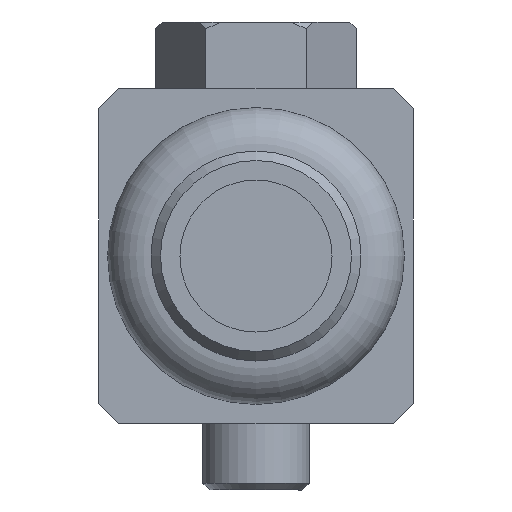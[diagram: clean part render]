
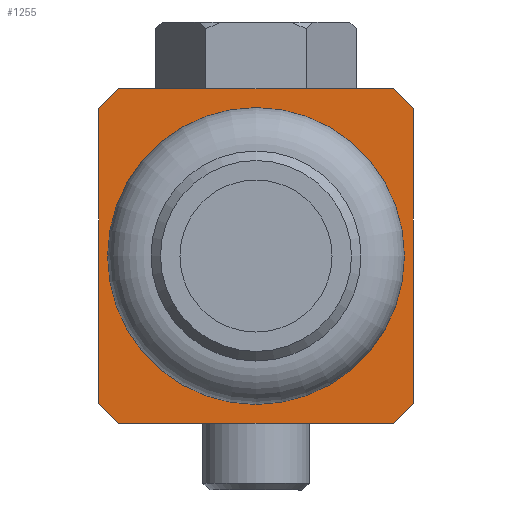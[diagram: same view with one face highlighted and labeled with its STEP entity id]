
A CAD part, front view. The second image highlights one B-rep face of the part: STEP entity #1255.
In plain terms, the highlighted planar face has unit normal (0, -1, 0).
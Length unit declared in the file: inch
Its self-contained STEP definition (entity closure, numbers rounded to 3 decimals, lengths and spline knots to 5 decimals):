
#63=FACE_BOUND('',#221,.T.);
#88=PLANE('',#1413);
#140=FACE_OUTER_BOUND('',#220,.T.);
#220=EDGE_LOOP('',(#949,#950,#951,#952,#953,#954,#955,#956));
#221=EDGE_LOOP('',(#957,#958));
#271=LINE('',#2063,#335);
#277=LINE('',#2075,#341);
#278=LINE('',#2078,#342);
#281=LINE('',#2087,#345);
#282=LINE('',#2090,#346);
#286=LINE('',#2116,#350);
#287=LINE('',#2120,#351);
#288=LINE('',#2121,#352);
#335=VECTOR('',#1661,0.3937);
#341=VECTOR('',#1669,0.3937);
#342=VECTOR('',#1672,0.3937);
#345=VECTOR('',#1681,0.3937);
#346=VECTOR('',#1686,0.3937);
#350=VECTOR('',#1716,0.3937);
#351=VECTOR('',#1721,0.3937);
#352=VECTOR('',#1722,0.3937);
#434=CIRCLE('',#1405,0.43701);
#435=CIRCLE('',#1406,0.43701);
#523=VERTEX_POINT('',#2059);
#525=VERTEX_POINT('',#2062);
#528=VERTEX_POINT('',#2069);
#530=VERTEX_POINT('',#2073);
#531=VERTEX_POINT('',#2077);
#534=VERTEX_POINT('',#2084);
#539=VERTEX_POINT('',#2101);
#540=VERTEX_POINT('',#2103);
#543=VERTEX_POINT('',#2114);
#544=VERTEX_POINT('',#2119);
#666=EDGE_CURVE('',#523,#525,#271,.T.);
#672=EDGE_CURVE('',#528,#530,#277,.T.);
#673=EDGE_CURVE('',#525,#531,#278,.T.);
#678=EDGE_CURVE('',#531,#534,#281,.T.);
#680=EDGE_CURVE('',#534,#530,#282,.T.);
#686=EDGE_CURVE('',#540,#539,#434,.T.);
#687=EDGE_CURVE('',#539,#540,#435,.T.);
#692=EDGE_CURVE('',#543,#523,#286,.T.);
#694=EDGE_CURVE('',#528,#544,#287,.T.);
#695=EDGE_CURVE('',#543,#544,#288,.T.);
#949=ORIENTED_EDGE('',*,*,#694,.F.);
#950=ORIENTED_EDGE('',*,*,#672,.T.);
#951=ORIENTED_EDGE('',*,*,#680,.F.);
#952=ORIENTED_EDGE('',*,*,#678,.F.);
#953=ORIENTED_EDGE('',*,*,#673,.F.);
#954=ORIENTED_EDGE('',*,*,#666,.F.);
#955=ORIENTED_EDGE('',*,*,#692,.F.);
#956=ORIENTED_EDGE('',*,*,#695,.T.);
#957=ORIENTED_EDGE('',*,*,#686,.T.);
#958=ORIENTED_EDGE('',*,*,#687,.T.);
#1255=ADVANCED_FACE('',(#140,#63),#88,.T.);
#1405=AXIS2_PLACEMENT_3D('',#2104,#1700,#1701);
#1406=AXIS2_PLACEMENT_3D('',#2105,#1702,#1703);
#1413=AXIS2_PLACEMENT_3D('',#2118,#1719,#1720);
#1661=DIRECTION('',(0.,0.,1.));
#1669=DIRECTION('',(0.,0.,1.));
#1672=DIRECTION('',(0.707,0.,0.707));
#1681=DIRECTION('',(1.,0.,0.));
#1686=DIRECTION('',(0.707,0.,-0.707));
#1700=DIRECTION('center_axis',(0.,1.,0.));
#1701=DIRECTION('ref_axis',(0.581,0.,-0.814));
#1702=DIRECTION('center_axis',(0.,1.,0.));
#1703=DIRECTION('ref_axis',(0.581,0.,-0.814));
#1716=DIRECTION('',(-0.707,0.,0.707));
#1719=DIRECTION('center_axis',(0.,-1.,0.));
#1720=DIRECTION('ref_axis',(0.,0.,
-1.));
#1721=DIRECTION('',(-0.707,0.,-0.707));
#1722=DIRECTION('',(1.,0.,0.));
#2059=CARTESIAN_POINT('',(-1.92255,-1.68852,-0.11953));
#2062=CARTESIAN_POINT('',(-1.92255,-1.68852,0.74661));
#2063=CARTESIAN_POINT('',(-1.92255,-1.68852,-0.11953));
#2069=CARTESIAN_POINT('',(-0.99735,-1.68852,-0.11953));
#2073=CARTESIAN_POINT('',(-0.99735,-1.68852,0.74661));
#2075=CARTESIAN_POINT('',(-0.99735,-1.68852,-0.11953));
#2077=CARTESIAN_POINT('',(-1.86349,-1.68852,0.80566));
#2078=CARTESIAN_POINT('',(-1.92255,-1.68852,0.74661));
#2084=CARTESIAN_POINT('',(-1.05641,-1.68852,0.80566));
#2087=CARTESIAN_POINT('',(-1.86349,-1.68852,0.80566));
#2090=CARTESIAN_POINT('',(-1.05641,-1.68852,0.80566));
#2101=CARTESIAN_POINT('',(-1.45995,-1.68852,0.75055));
#2103=CARTESIAN_POINT('',(-1.45995,-1.68852,-0.12347));
#2104=CARTESIAN_POINT('Origin',(-1.45995,-1.68852,0.31354));
#2105=CARTESIAN_POINT('Origin',(-1.45995,-1.68852,0.31354));
#2114=CARTESIAN_POINT('',(-1.86349,-1.68852,-0.17859));
#2116=CARTESIAN_POINT('',(-1.86349,-1.68852,-0.17859));
#2118=CARTESIAN_POINT('Origin',(-1.45995,-1.68852,-0.17863));
#2119=CARTESIAN_POINT('',(-1.05641,-1.68852,-0.17859));
#2120=CARTESIAN_POINT('',(-0.99735,-1.68852,-0.11953));
#2121=CARTESIAN_POINT('',(-1.86349,-1.68852,-0.17859));
